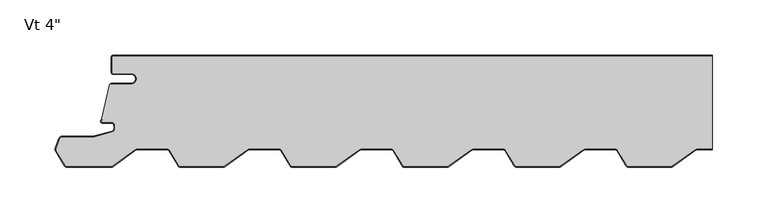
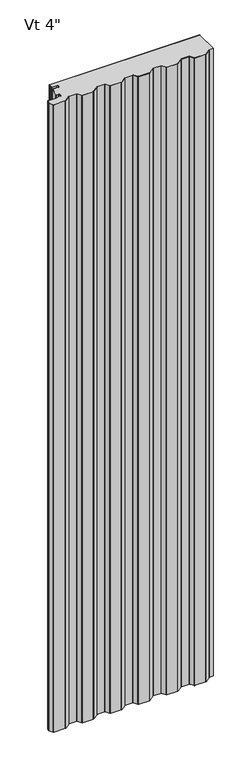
"""IFC4 building model written with IfcOpenShell, lengths in millimetres: plate geometry."""

from ifc_helpers import new_model, si_unit, point, frame_2d, origin, origin_with_axes, place, context, project, spatial, polyline, circle_curve, trimmed, segment, composite_curve, outline, extrude, source, transform, mapped, element, save


def plate_9160dace(model_context):
    return source(origin(), model_context, "Body", "SweptSolid", [
        extrude(outline(composite_curve([segment(polyline([(-270.4180055, -0.8019381), (272.7999998, -0.8019381), (272.7999998, -84.9200375), (259.1601262, -84.9200375)]), True, "CONTINUOUS"), segment(trimmed(circle_curve(frame_2d((259.1601262, -87.270272)), 2.3502344), [point((259.1601262, -84.9200375))], [point((257.7940802, -85.3578075))], True, "CARTESIAN"), True, "CONTINUOUS"), segment(polyline([(257.7940802, -85.3578075), (236.5891175, -100.5042095)]), True, "CONTINUOUS"), segment(trimmed(circle_curve(frame_2d((235.6661134, -99.2120038)), 1.5879962), [point((236.5891175, -100.5042095))], [point((235.6661134, -100.8))], False, "CARTESIAN"), True, "CONTINUOUS"), segment(polyline([(235.6661134, -100.8), (196.4620591, -100.8)]), True, "CONTINUOUS"), segment(trimmed(circle_curve(frame_2d((196.4620591, -99.2120038)), 1.5879962), [point((196.4620591, -100.8))], [point((195.1003636, -100.0290211))], False, "CARTESIAN"), True, "CONTINUOUS"), segment(polyline([(195.1003636, -100.0290211), (186.7196027, -86.0610863)]), True, "CONTINUOUS"), segment(trimmed(circle_curve(frame_2d((184.7042933, -87.270272)), 2.3502344), [point((186.7196027, -86.0610863))], [point((184.7042933, -84.9200375))], True, "CARTESIAN"), True, "CONTINUOUS"), segment(polyline([(184.7042933, -84.9200375), (157.5283663, -84.9200375)]), True, "CONTINUOUS"), segment(trimmed(circle_curve(frame_2d((157.5283663, -87.270272)), 2.3502344), [point((157.5283663, -84.9200375))], [point((156.1623203, -85.3578075))], True, "CARTESIAN"), True, "CONTINUOUS"), segment(polyline([(156.1623203, -85.3578075), (134.9573576, -100.5042095)]), True, "CONTINUOUS"), segment(trimmed(circle_curve(frame_2d((134.0343535, -99.2120038)), 1.5879962), [point((134.9573576, -100.5042095))], [point((134.0343535, -100.8))], False, "CARTESIAN"), True, "CONTINUOUS"), segment(polyline([(134.0343535, -100.8), (94.8302992, -100.8)]), True, "CONTINUOUS"), segment(trimmed(circle_curve(frame_2d((94.8302992, -99.2120038)), 1.5879962), [point((94.8302992, -100.8))], [point((93.4686036, -100.0290211))], False, "CARTESIAN"), True, "CONTINUOUS"), segment(polyline([(93.4686036, -100.0290211), (85.0878428, -86.0610863)]), True, "CONTINUOUS"), segment(trimmed(circle_curve(frame_2d((83.0725334, -87.270272)), 2.3502344), [point((85.0878428, -86.0610863))], [point((83.0725334, -84.9200375))], True, "CARTESIAN"), True, "CONTINUOUS"), segment(polyline([(83.0725334, -84.9200375), (55.8966064, -84.9200375)]), True, "CONTINUOUS"), segment(trimmed(circle_curve(frame_2d((55.8966064, -87.270272)), 2.3502344), [point((55.8966064, -84.9200375))], [point((54.5305604, -85.3578075))], True, "CARTESIAN"), True, "CONTINUOUS"), segment(polyline([(54.5305604, -85.3578075), (33.3255977, -100.5042095)]), True, "CONTINUOUS"), segment(trimmed(circle_curve(frame_2d((32.4025936, -99.2120038)), 1.5879962), [point((33.3255977, -100.5042095))], [point((32.4025936, -100.8))], False, "CARTESIAN"), True, "CONTINUOUS"), segment(polyline([(32.4025936, -100.8), (-6.8014607, -100.8)]), True, "CONTINUOUS"), segment(trimmed(circle_curve(frame_2d((-6.8014607, -99.2120038)), 1.5879962), [point((-6.8014607, -100.8))], [point((-8.1631563, -100.0290211))], False, "CARTESIAN"), True, "CONTINUOUS"), segment(polyline([(-8.1631563, -100.0290211), (-16.5439171, -86.0610863)]), True, "CONTINUOUS"), segment(trimmed(circle_curve(frame_2d((-18.5592266, -87.270272)), 2.3502344), [point((-16.5439171, -86.0610863))], [point((-18.5592266, -84.9200375))], True, "CARTESIAN"), True, "CONTINUOUS"), segment(polyline([(-18.5592266, -84.9200375), (-45.7351535, -84.9200375)]), True, "CONTINUOUS"), segment(trimmed(circle_curve(frame_2d((-45.7351535, -87.270272)), 2.3502344), [point((-45.7351535, -84.9200375))], [point((-47.1011996, -85.3578075))], True, "CARTESIAN"), True, "CONTINUOUS"), segment(polyline([(-47.1011996, -85.3578075), (-68.3061623, -100.5042095)]), True, "CONTINUOUS"), segment(trimmed(circle_curve(frame_2d((-69.2291663, -99.2120038)), 1.5879962), [point((-68.3061623, -100.5042095))], [point((-69.2291663, -100.8))], False, "CARTESIAN"), True, "CONTINUOUS"), segment(polyline([(-69.2291663, -100.8), (-108.4332207, -100.8)]), True, "CONTINUOUS"), segment(trimmed(circle_curve(frame_2d((-108.4332207, -99.2120038)), 1.5879962), [point((-108.4332207, -100.8))], [point((-109.7949162, -100.0290211))], False, "CARTESIAN"), True, "CONTINUOUS"), segment(polyline([(-109.7949162, -100.0290211), (-118.1756771, -86.0610863)]), True, "CONTINUOUS"), segment(trimmed(circle_curve(frame_2d((-120.1909865, -87.270272)), 2.3502344), [point((-118.1756771, -86.0610863))], [point((-120.1909865, -84.9200375))], True, "CARTESIAN"), True, "CONTINUOUS"), segment(polyline([(-120.1909865, -84.9200375), (-147.3669135, -84.9200375)]), True, "CONTINUOUS"), segment(trimmed(circle_curve(frame_2d((-147.3669135, -87.270272)), 2.3502344), [point((-147.3669135, -84.9200375))], [point((-148.7329595, -85.3578075))], True, "CARTESIAN"), True, "CONTINUOUS"), segment(polyline([(-148.7329595, -85.3578075), (-169.9379222, -100.5042095)]), True, "CONTINUOUS"), segment(trimmed(circle_curve(frame_2d((-170.8609263, -99.2120038)), 1.5879962), [point((-169.9379222, -100.5042095))], [point((-170.8609263, -100.8))], False, "CARTESIAN"), True, "CONTINUOUS"), segment(polyline([(-170.8609263, -100.8), (-210.0649806, -100.8)]), True, "CONTINUOUS"), segment(trimmed(circle_curve(frame_2d((-210.0649806, -99.2120038)), 1.5879962), [point((-210.0649806, -100.8))], [point((-211.4266761, -100.0290211))], False, "CARTESIAN"), True, "CONTINUOUS"), segment(polyline([(-211.4266761, -100.0290211), (-219.807437, -86.0610863)]), True, "CONTINUOUS"), segment(trimmed(circle_curve(frame_2d((-221.8227464, -87.270272)), 2.3502344), [point((-219.807437, -86.0610863))], [point((-221.8227464, -84.9200375))], True, "CARTESIAN"), True, "CONTINUOUS"), segment(polyline([(-221.8227464, -84.9200375), (-248.9986734, -84.9200375)]), True, "CONTINUOUS"), segment(trimmed(circle_curve(frame_2d((-248.9986734, -87.270272)), 2.3502344), [point((-248.9986734, -84.9200375))], [point((-250.3647194, -85.3578075))], True, "CARTESIAN"), True, "CONTINUOUS"), segment(polyline([(-250.3647194, -85.3578075), (-271.5696821, -100.5042095)]), True, "CONTINUOUS"), segment(trimmed(circle_curve(frame_2d((-272.4926862, -99.2120038)), 1.5879962), [point((-271.5696821, -100.5042095))], [point((-272.4926862, -100.8))], False, "CARTESIAN"), True, "CONTINUOUS"), segment(polyline([(-272.4926862, -100.8), (-313.2512341, -100.8)]), True, "CONTINUOUS"), segment(trimmed(circle_curve(frame_2d((-313.2512341, -99.2120038)), 1.5879962), [point((-313.2512341, -100.8))], [point((-314.6129296, -100.0290211))], False, "CARTESIAN"), True, "CONTINUOUS"), segment(polyline([(-314.6129296, -100.0290211), (-322.4856613, -86.9078017)]), True, "CONTINUOUS"), segment(trimmed(circle_curve(frame_2d((-320.4431179, -85.6822757)), 2.3819944), [point((-322.4856613, -86.9078017))], [point((-322.6814605, -84.8675857))], False, "CARTESIAN"), True, "CONTINUOUS"), segment(polyline([(-322.6814605, -84.8675857), (-319.4568321, -76.0079921)]), True, "CONTINUOUS"), segment(trimmed(circle_curve(frame_2d((-317.2184896, -76.8226821)), 2.3819944), [point((-319.4568321, -76.0079921))], [point((-317.2184896, -74.4406877))], False, "CARTESIAN"), True, "CONTINUOUS"), segment(polyline([(-317.2184896, -74.4406877), (-290.0333742, -74.4406877)]), True, "CONTINUOUS"), segment(trimmed(circle_curve(frame_2d((-290.0333742, -71.2964552)), 3.1442326), [point((-290.0333742, -74.4406877))], [point((-289.2083607, -74.3305203))], True, "CARTESIAN"), True, "CONTINUOUS"), segment(polyline([(-289.2083607, -74.3305203), (-271.729044, -69.5775993)]), True, "CONTINUOUS"), segment(trimmed(circle_curve(frame_2d((-272.5540575, -66.5435342)), 3.1442326), [point((-271.729044, -69.5775993))], [point((-269.4098249, -66.5435342))], True, "CARTESIAN"), True, "CONTINUOUS"), segment(polyline([(-269.4098249, -66.5435342), (-269.4098249, -63.8816786)]), True, "CONTINUOUS"), segment(trimmed(circle_curve(frame_2d((-272.5540575, -63.8816786)), 3.1442326), [point((-269.4098249, -63.8816786))], [point((-272.5540575, -60.7374461))], True, "CARTESIAN"), True, "CONTINUOUS"), segment(polyline([(-272.5540575, -60.7374461), (-280.6810818, -60.7374461)]), True, "CONTINUOUS"), segment(trimmed(circle_curve(frame_2d((-280.6810818, -59.9434479)), 0.7939981), [point((-280.6810818, -60.7374461))], [point((-281.2425233, -59.3820065))], False, "CARTESIAN"), True, "CONTINUOUS"), segment(polyline([(-281.2425233, -59.3820065), (-280.6420193, -58.7815025), (-281.2056496, -58.2178722), (-274.2125705, -26.2098781), (-254.538043, -26.2098781)]), True, "CONTINUOUS"), segment(trimmed(circle_curve(frame_2d((-254.538043, -21.4458893)), 4.7639887), [point((-254.538043, -26.2098781))], [point((-254.538043, -16.6819006))], True, "CARTESIAN"), True, "CONTINUOUS"), segment(polyline([(-254.538043, -16.6819006), (-270.4180055, -16.6819006)]), True, "CONTINUOUS"), segment(trimmed(circle_curve(frame_2d((-270.4180055, -15.0939043)), 1.5879962), [point((-270.4180055, -16.6819006))], [point((-272.0060017, -15.0939043))], False, "CARTESIAN"), True, "CONTINUOUS"), segment(polyline([(-272.0060017, -15.0939043), (-272.0060017, -2.3899344)]), True, "CONTINUOUS"), segment(trimmed(circle_curve(frame_2d((-270.4180055, -2.3899344)), 1.5879962), [point((-272.0060017, -2.3899344))], [point((-270.4180055, -0.8019381))], False, "CARTESIAN"), True, "CONTINUOUS")], self_intersect=False)), origin_with_axes(), (0.0, 0.0, 1.0), 2400.0),
        extrude(outline(composite_curve([segment(polyline([(-270.4180055, 0.0), (272.7999998, 0.0), (272.7999998, -0.7939981), (-270.4180055, -0.7939981)]), True, "CONTINUOUS"), segment(trimmed(circle_curve(frame_2d((-270.4180055, -2.3819944)), 1.5879962), [point((-270.4180055, -0.7939981))], [point((-272.0060017, -2.3819944))], True, "CARTESIAN"), True, "CONTINUOUS"), segment(polyline([(-272.0060017, -2.3819944), (-272.0060017, -15.0859644)]), True, "CONTINUOUS"), segment(trimmed(circle_curve(frame_2d((-270.4180055, -15.0859644)), 1.5879962), [point((-272.0060017, -15.0859644))], [point((-270.4180055, -16.6739606))], True, "CARTESIAN"), True, "CONTINUOUS"), segment(polyline([(-270.4180055, -16.6739606), (-254.538043, -16.6739606)]), True, "CONTINUOUS"), segment(trimmed(circle_curve(frame_2d((-254.538043, -21.4379494)), 4.7639887), [point((-254.538043, -16.6739606))], [point((-254.538043, -26.2019381))], False, "CARTESIAN"), True, "CONTINUOUS"), segment(polyline([(-254.538043, -26.2019381), (-272.7999998, -26.2019381), (-272.7999998, -25.40794), (-254.538043, -25.40794)]), True, "CONTINUOUS"), segment(trimmed(circle_curve(frame_2d((-254.538043, -21.4379494)), 3.9699906), [point((-254.538043, -25.40794))], [point((-254.538043, -17.4679587))], True, "CARTESIAN"), True, "CONTINUOUS"), segment(polyline([(-254.538043, -17.4679587), (-270.4180055, -17.4679587)]), True, "CONTINUOUS"), segment(trimmed(circle_curve(frame_2d((-270.4180055, -15.0859644)), 2.3819944), [point((-270.4180055, -17.4679587))], [point((-272.7999998, -15.0859644))], False, "CARTESIAN"), True, "CONTINUOUS"), segment(polyline([(-272.7999998, -15.0859644), (-272.7999998, -2.3819944)]), True, "CONTINUOUS"), segment(trimmed(circle_curve(frame_2d((-270.4180055, -2.3819944)), 2.3819944), [point((-272.7999998, -2.3819944))], [point((-270.4180055, 0.0))], False, "CARTESIAN"), True, "CONTINUOUS")], self_intersect=False)), origin_with_axes(), (0.0, 0.0, 1.0), 2400.0),
        extrude(outline(composite_curve([segment(polyline([(259.1601262, -84.9200375), (272.7999998, -84.9200375), (272.7999998, -85.7200375), (259.1601262, -85.7200375)]), True, "CONTINUOUS"), segment(trimmed(circle_curve(frame_2d((259.1601262, -87.270272)), 1.5502344), [point((259.1601262, -85.7200375))], [point((258.2590708, -86.0087943))], True, "CARTESIAN"), True, "CONTINUOUS"), segment(polyline([(258.2590708, -86.0087943), (237.0541081, -101.1551962)]), True, "CONTINUOUS"), segment(trimmed(circle_curve(frame_2d((235.6661134, -99.2120038)), 2.3879962), [point((237.0541081, -101.1551962))], [point((235.6661134, -101.6))], False, "CARTESIAN"), True, "CONTINUOUS"), segment(polyline([(235.6661134, -101.6), (196.4620591, -101.6)]), True, "CONTINUOUS"), segment(trimmed(circle_curve(frame_2d((196.4620591, -99.2120038)), 2.3879962), [point((196.4620591, -101.6))], [point((194.4143692, -100.4406177))], False, "CARTESIAN"), True, "CONTINUOUS"), segment(polyline([(194.4143692, -100.4406177), (186.0336084, -86.4726829)]), True, "CONTINUOUS"), segment(trimmed(circle_curve(frame_2d((184.7042933, -87.270272)), 1.5502344), [point((186.0336084, -86.4726829))], [point((184.7042933, -85.7200375))], True, "CARTESIAN"), True, "CONTINUOUS"), segment(polyline([(184.7042933, -85.7200375), (157.5283663, -85.7200375)]), True, "CONTINUOUS"), segment(trimmed(circle_curve(frame_2d((157.5283663, -87.270272)), 1.5502344), [point((157.5283663, -85.7200375))], [point((156.6273108, -86.0087943))], True, "CARTESIAN"), True, "CONTINUOUS"), segment(polyline([(156.6273108, -86.0087943), (135.4223481, -101.1551962)]), True, "CONTINUOUS"), segment(trimmed(circle_curve(frame_2d((134.0343535, -99.2120038)), 2.3879962), [point((135.4223481, -101.1551962))], [point((134.0343535, -101.6))], False, "CARTESIAN"), True, "CONTINUOUS"), segment(polyline([(134.0343535, -101.6), (94.8302992, -101.6)]), True, "CONTINUOUS"), segment(trimmed(circle_curve(frame_2d((94.8302992, -99.2120038)), 2.3879962), [point((94.8302992, -101.6))], [point((92.7826093, -100.4406177))], False, "CARTESIAN"), True, "CONTINUOUS"), segment(polyline([(92.7826093, -100.4406177), (84.4018484, -86.4726829)]), True, "CONTINUOUS"), segment(trimmed(circle_curve(frame_2d((83.0725334, -87.270272)), 1.5502344), [point((84.4018484, -86.4726829))], [point((83.0725334, -85.7200375))], True, "CARTESIAN"), True, "CONTINUOUS"), segment(polyline([(83.0725334, -85.7200375), (55.8966064, -85.7200375)]), True, "CONTINUOUS"), segment(trimmed(circle_curve(frame_2d((55.8966064, -87.270272)), 1.5502344), [point((55.8966064, -85.7200375))], [point((54.9955509, -86.0087943))], True, "CARTESIAN"), True, "CONTINUOUS"), segment(polyline([(54.9955509, -86.0087943), (33.7905882, -101.1551962)]), True, "CONTINUOUS"), segment(trimmed(circle_curve(frame_2d((32.4025936, -99.2120038)), 2.3879962), [point((33.7905882, -101.1551962))], [point((32.4025936, -101.6))], False, "CARTESIAN"), True, "CONTINUOUS"), segment(polyline([(32.4025936, -101.6), (-6.8014607, -101.6)]), True, "CONTINUOUS"), segment(trimmed(circle_curve(frame_2d((-6.8014607, -99.2120038)), 2.3879962), [point((-6.8014607, -101.6))], [point((-8.8491506, -100.4406177))], False, "CARTESIAN"), True, "CONTINUOUS"), segment(polyline([(-8.8491506, -100.4406177), (-17.2299115, -86.4726829)]), True, "CONTINUOUS"), segment(trimmed(circle_curve(frame_2d((-18.5592266, -87.270272)), 1.5502344), [point((-17.2299115, -86.4726829))], [point((-18.5592266, -85.7200375))], True, "CARTESIAN"), True, "CONTINUOUS"), segment(polyline([(-18.5592266, -85.7200375), (-45.7351535, -85.7200375)]), True, "CONTINUOUS"), segment(trimmed(circle_curve(frame_2d((-45.7351535, -87.270272)), 1.5502344), [point((-45.7351535, -85.7200375))], [point((-46.636209, -86.0087943))], True, "CARTESIAN"), True, "CONTINUOUS"), segment(polyline([(-46.636209, -86.0087943), (-67.8411717, -101.1551962)]), True, "CONTINUOUS"), segment(trimmed(circle_curve(frame_2d((-69.2291663, -99.2120038)), 2.3879962), [point((-67.8411717, -101.1551962))], [point((-69.2291663, -101.6))], False, "CARTESIAN"), True, "CONTINUOUS"), segment(polyline([(-69.2291663, -101.6), (-108.4332207, -101.6)]), True, "CONTINUOUS"), segment(trimmed(circle_curve(frame_2d((-108.4332207, -99.2120038)), 2.3879962), [point((-108.4332207, -101.6))], [point((-110.4809105, -100.4406177))], False, "CARTESIAN"), True, "CONTINUOUS"), segment(polyline([(-110.4809105, -100.4406177), (-118.8616714, -86.4726829)]), True, "CONTINUOUS"), segment(trimmed(circle_curve(frame_2d((-120.1909865, -87.270272)), 1.5502344), [point((-118.8616714, -86.4726829))], [point((-120.1909865, -85.7200375))], True, "CARTESIAN"), True, "CONTINUOUS"), segment(polyline([(-120.1909865, -85.7200375), (-147.3669135, -85.7200375)]), True, "CONTINUOUS"), segment(trimmed(circle_curve(frame_2d((-147.3669135, -87.270272)), 1.5502344), [point((-147.3669135, -85.7200375))], [point((-148.2679689, -86.0087943))], True, "CARTESIAN"), True, "CONTINUOUS"), segment(polyline([(-148.2679689, -86.0087943), (-169.4729316, -101.1551962)]), True, "CONTINUOUS"), segment(trimmed(circle_curve(frame_2d((-170.8609263, -99.2120038)), 2.3879962), [point((-169.4729316, -101.1551962))], [point((-170.8609263, -101.6))], False, "CARTESIAN"), True, "CONTINUOUS"), segment(polyline([(-170.8609263, -101.6), (-210.0649806, -101.6)]), True, "CONTINUOUS"), segment(trimmed(circle_curve(frame_2d((-210.0649806, -99.2120038)), 2.3879962), [point((-210.0649806, -101.6))], [point((-212.1126705, -100.4406177))], False, "CARTESIAN"), True, "CONTINUOUS"), segment(polyline([(-212.1126705, -100.4406177), (-220.4934313, -86.4726829)]), True, "CONTINUOUS"), segment(trimmed(circle_curve(frame_2d((-221.8227464, -87.270272)), 1.5502344), [point((-220.4934313, -86.4726829))], [point((-221.8227464, -85.7200375))], True, "CARTESIAN"), True, "CONTINUOUS"), segment(polyline([(-221.8227464, -85.7200375), (-248.9986734, -85.7200375)]), True, "CONTINUOUS"), segment(trimmed(circle_curve(frame_2d((-248.9986734, -87.270272)), 1.5502344), [point((-248.9986734, -85.7200375))], [point((-249.8997289, -86.0087943))], True, "CARTESIAN"), True, "CONTINUOUS"), segment(polyline([(-249.8997289, -86.0087943), (-271.1046916, -101.1551962)]), True, "CONTINUOUS"), segment(trimmed(circle_curve(frame_2d((-272.4926862, -99.2120038)), 2.3879962), [point((-271.1046916, -101.1551962))], [point((-272.4926862, -101.6))], False, "CARTESIAN"), True, "CONTINUOUS"), segment(polyline([(-272.4926862, -101.6), (-313.2512341, -101.6)]), True, "CONTINUOUS"), segment(trimmed(circle_curve(frame_2d((-313.2512341, -99.2120038)), 2.3879962), [point((-313.2512341, -101.6))], [point((-315.298924, -100.4406177))], False, "CARTESIAN"), True, "CONTINUOUS"), segment(polyline([(-315.298924, -100.4406177), (-323.1716556, -87.3193983)]), True, "CONTINUOUS"), segment(trimmed(circle_curve(frame_2d((-320.4431179, -85.6822757)), 3.1819944), [point((-323.1716556, -87.3193983))], [point((-323.4332146, -84.5939695))], False, "CARTESIAN"), True, "CONTINUOUS"), segment(polyline([(-323.4332146, -84.5939695), (-320.2085862, -75.7343759)]), True, "CONTINUOUS"), segment(trimmed(circle_curve(frame_2d((-317.2184896, -76.8226821)), 3.1819944), [point((-320.2085862, -75.7343759))], [point((-317.2184896, -73.6406877))], False, "CARTESIAN"), True, "CONTINUOUS"), segment(polyline([(-317.2184896, -73.6406877), (-289.7203392, -73.6406877), (-271.9389556, -68.8056297)]), True, "CONTINUOUS"), segment(trimmed(circle_curve(frame_2d((-272.5540575, -66.5435342)), 2.3442326), [point((-271.9389556, -68.8056297))], [point((-270.2098249, -66.5435342))], True, "CARTESIAN"), True, "CONTINUOUS"), segment(polyline([(-270.2098249, -66.5435342), (-270.2098249, -63.8816786)]), True, "CONTINUOUS"), segment(trimmed(circle_curve(frame_2d((-272.5540575, -63.8816786)), 2.3442326), [point((-270.2098249, -63.8816786))], [point((-272.5540575, -61.5374461))], True, "CARTESIAN"), True, "CONTINUOUS"), segment(polyline([(-272.5540575, -61.5374461), (-280.7201443, -61.5374461)]), True, "CONTINUOUS"), segment(trimmed(circle_curve(frame_2d((-280.7201443, -59.9434479)), 1.5939981), [point((-280.7201443, -61.5374461))], [point((-281.8472712, -58.8163211))], False, "CARTESIAN"), True, "CONTINUOUS"), segment(polyline([(-281.8472712, -58.8163211), (-281.2858297, -58.2548796), (-280.7201443, -58.820565), (-281.2815858, -59.3820065)]), True, "CONTINUOUS"), segment(trimmed(circle_curve(frame_2d((-280.7201443, -59.9434479)), 0.7939981), [point((-281.2815858, -59.3820065))], [point((-280.7201443, -60.7374461))], True, "CARTESIAN"), True, "CONTINUOUS"), segment(polyline([(-280.7201443, -60.7374461), (-272.5540575, -60.7374461)]), True, "CONTINUOUS"), segment(trimmed(circle_curve(frame_2d((-272.5540575, -63.8816786)), 3.1442326), [point((-272.5540575, -60.7374461))], [point((-269.4098249, -63.8816786))], False, "CARTESIAN"), True, "CONTINUOUS"), segment(polyline([(-269.4098249, -63.8816786), (-269.4098249, -66.5435342)]), True, "CONTINUOUS"), segment(trimmed(circle_curve(frame_2d((-272.5540575, -66.5435342)), 3.1442326), [point((-269.4098249, -66.5435342))], [point((-271.729044, -69.5775993))], False, "CARTESIAN"), True, "CONTINUOUS"), segment(polyline([(-271.729044, -69.5775993), (-289.2083607, -74.3305203)]), True, "CONTINUOUS"), segment(trimmed(circle_curve(frame_2d((-290.0333742, -71.2964552)), 3.1442326), [point((-289.2083607, -74.3305203))], [point((-290.0333742, -74.4406877))], False, "CARTESIAN"), True, "CONTINUOUS"), segment(polyline([(-290.0333742, -74.4406877), (-317.2184896, -74.4406877)]), True, "CONTINUOUS"), segment(trimmed(circle_curve(frame_2d((-317.2184896, -76.8226821)), 2.3819944), [point((-317.2184896, -74.4406877))], [point((-319.4568321, -76.0079921))], True, "CARTESIAN"), True, "CONTINUOUS"), segment(polyline([(-319.4568321, -76.0079921), (-322.6814605, -84.8675857)]), True, "CONTINUOUS"), segment(trimmed(circle_curve(frame_2d((-320.4431179, -85.6822757)), 2.3819944), [point((-322.6814605, -84.8675857))], [point((-322.4856613, -86.9078017))], True, "CARTESIAN"), True, "CONTINUOUS"), segment(polyline([(-322.4856613, -86.9078017), (-314.6129296, -100.0290211)]), True, "CONTINUOUS"), segment(trimmed(circle_curve(frame_2d((-313.2512341, -99.2120038)), 1.5879962), [point((-314.6129296, -100.0290211))], [point((-313.2512341, -100.8))], True, "CARTESIAN"), True, "CONTINUOUS"), segment(polyline([(-313.2512341, -100.8), (-272.4926862, -100.8)]), True, "CONTINUOUS"), segment(trimmed(circle_curve(frame_2d((-272.4926862, -99.2120038)), 1.5879962), [point((-272.4926862, -100.8))], [point((-271.5696821, -100.5042095))], True, "CARTESIAN"), True, "CONTINUOUS"), segment(polyline([(-271.5696821, -100.5042095), (-250.3647194, -85.3578075)]), True, "CONTINUOUS"), segment(trimmed(circle_curve(frame_2d((-248.9986734, -87.270272)), 2.3502344), [point((-250.3647194, -85.3578075))], [point((-248.9986734, -84.9200375))], False, "CARTESIAN"), True, "CONTINUOUS"), segment(polyline([(-248.9986734, -84.9200375), (-221.8227464, -84.9200375)]), True, "CONTINUOUS"), segment(trimmed(circle_curve(frame_2d((-221.8227464, -87.270272)), 2.3502344), [point((-221.8227464, -84.9200375))], [point((-219.807437, -86.0610863))], False, "CARTESIAN"), True, "CONTINUOUS"), segment(polyline([(-219.807437, -86.0610863), (-211.4266761, -100.0290211)]), True, "CONTINUOUS"), segment(trimmed(circle_curve(frame_2d((-210.0649806, -99.2120038)), 1.5879962), [point((-211.4266761, -100.0290211))], [point((-210.0649806, -100.8))], True, "CARTESIAN"), True, "CONTINUOUS"), segment(polyline([(-210.0649806, -100.8), (-170.8609263, -100.8)]), True, "CONTINUOUS"), segment(trimmed(circle_curve(frame_2d((-170.8609263, -99.2120038)), 1.5879962), [point((-170.8609263, -100.8))], [point((-169.9379222, -100.5042095))], True, "CARTESIAN"), True, "CONTINUOUS"), segment(polyline([(-169.9379222, -100.5042095), (-148.7329595, -85.3578075)]), True, "CONTINUOUS"), segment(trimmed(circle_curve(frame_2d((-147.3669135, -87.270272)), 2.3502344), [point((-148.7329595, -85.3578075))], [point((-147.3669135, -84.9200375))], False, "CARTESIAN"), True, "CONTINUOUS"), segment(polyline([(-147.3669135, -84.9200375), (-120.1909865, -84.9200375)]), True, "CONTINUOUS"), segment(trimmed(circle_curve(frame_2d((-120.1909865, -87.270272)), 2.3502344), [point((-120.1909865, -84.9200375))], [point((-118.1756771, -86.0610863))], False, "CARTESIAN"), True, "CONTINUOUS"), segment(polyline([(-118.1756771, -86.0610863), (-109.7949162, -100.0290211)]), True, "CONTINUOUS"), segment(trimmed(circle_curve(frame_2d((-108.4332207, -99.2120038)), 1.5879962), [point((-109.7949162, -100.0290211))], [point((-108.4332207, -100.8))], True, "CARTESIAN"), True, "CONTINUOUS"), segment(polyline([(-108.4332207, -100.8), (-69.2291663, -100.8)]), True, "CONTINUOUS"), segment(trimmed(circle_curve(frame_2d((-69.2291663, -99.2120038)), 1.5879962), [point((-69.2291663, -100.8))], [point((-68.3061623, -100.5042095))], True, "CARTESIAN"), True, "CONTINUOUS"), segment(polyline([(-68.3061623, -100.5042095), (-47.1011996, -85.3578075)]), True, "CONTINUOUS"), segment(trimmed(circle_curve(frame_2d((-45.7351535, -87.270272)), 2.3502344), [point((-47.1011996, -85.3578075))], [point((-45.7351535, -84.9200375))], False, "CARTESIAN"), True, "CONTINUOUS"), segment(polyline([(-45.7351535, -84.9200375), (-18.5592266, -84.9200375)]), True, "CONTINUOUS"), segment(trimmed(circle_curve(frame_2d((-18.5592266, -87.270272)), 2.3502344), [point((-18.5592266, -84.9200375))], [point((-16.5439171, -86.0610863))], False, "CARTESIAN"), True, "CONTINUOUS"), segment(polyline([(-16.5439171, -86.0610863), (-8.1631563, -100.0290211)]), True, "CONTINUOUS"), segment(trimmed(circle_curve(frame_2d((-6.8014607, -99.2120038)), 1.5879962), [point((-8.1631563, -100.0290211))], [point((-6.8014607, -100.8))], True, "CARTESIAN"), True, "CONTINUOUS"), segment(polyline([(-6.8014607, -100.8), (32.4025936, -100.8)]), True, "CONTINUOUS"), segment(trimmed(circle_curve(frame_2d((32.4025936, -99.2120038)), 1.5879962), [point((32.4025936, -100.8))], [point((33.3255977, -100.5042095))], True, "CARTESIAN"), True, "CONTINUOUS"), segment(polyline([(33.3255977, -100.5042095), (54.5305604, -85.3578075)]), True, "CONTINUOUS"), segment(trimmed(circle_curve(frame_2d((55.8966064, -87.270272)), 2.3502344), [point((54.5305604, -85.3578075))], [point((55.8966064, -84.9200375))], False, "CARTESIAN"), True, "CONTINUOUS"), segment(polyline([(55.8966064, -84.9200375), (83.0725334, -84.9200375)]), True, "CONTINUOUS"), segment(trimmed(circle_curve(frame_2d((83.0725334, -87.270272)), 2.3502344), [point((83.0725334, -84.9200375))], [point((85.0878428, -86.0610863))], False, "CARTESIAN"), True, "CONTINUOUS"), segment(polyline([(85.0878428, -86.0610863), (93.4686036, -100.0290211)]), True, "CONTINUOUS"), segment(trimmed(circle_curve(frame_2d((94.8302992, -99.2120038)), 1.5879962), [point((93.4686036, -100.0290211))], [point((94.8302992, -100.8))], True, "CARTESIAN"), True, "CONTINUOUS"), segment(polyline([(94.8302992, -100.8), (134.0343535, -100.8)]), True, "CONTINUOUS"), segment(trimmed(circle_curve(frame_2d((134.0343535, -99.2120038)), 1.5879962), [point((134.0343535, -100.8))], [point((134.9573576, -100.5042095))], True, "CARTESIAN"), True, "CONTINUOUS"), segment(polyline([(134.9573576, -100.5042095), (156.1623203, -85.3578075)]), True, "CONTINUOUS"), segment(trimmed(circle_curve(frame_2d((157.5283663, -87.270272)), 2.3502344), [point((156.1623203, -85.3578075))], [point((157.5283663, -84.9200375))], False, "CARTESIAN"), True, "CONTINUOUS"), segment(polyline([(157.5283663, -84.9200375), (184.7042933, -84.9200375)]), True, "CONTINUOUS"), segment(trimmed(circle_curve(frame_2d((184.7042933, -87.270272)), 2.3502344), [point((184.7042933, -84.9200375))], [point((186.7196027, -86.0610863))], False, "CARTESIAN"), True, "CONTINUOUS"), segment(polyline([(186.7196027, -86.0610863), (195.1003636, -100.0290211)]), True, "CONTINUOUS"), segment(trimmed(circle_curve(frame_2d((196.4620591, -99.2120038)), 1.5879962), [point((195.1003636, -100.0290211))], [point((196.4620591, -100.8))], True, "CARTESIAN"), True, "CONTINUOUS"), segment(polyline([(196.4620591, -100.8), (235.6661134, -100.8)]), True, "CONTINUOUS"), segment(trimmed(circle_curve(frame_2d((235.6661134, -99.2120038)), 1.5879962), [point((235.6661134, -100.8))], [point((236.5891175, -100.5042095))], True, "CARTESIAN"), True, "CONTINUOUS"), segment(polyline([(236.5891175, -100.5042095), (257.7940802, -85.3578075)]), True, "CONTINUOUS"), segment(trimmed(circle_curve(frame_2d((259.1601262, -87.270272)), 2.3502344), [point((257.7940802, -85.3578075))], [point((259.1601262, -84.9200375))], False, "CARTESIAN"), True, "CONTINUOUS")], self_intersect=False)), origin_with_axes(), (0.0, 0.0, 1.0), 2400.0),
    ])


if __name__ == "__main__":
    model = new_model("IFC4")
    model_context = context("Model", 3, world=origin())
    ifc_project = project(units=[si_unit("LENGTHUNIT", "METRE", prefix="MILLI")], contexts=[model_context])
    site = spatial("IfcSite", under=ifc_project)
    building = spatial("IfcBuilding", under=site)
    placement = place(None, origin())
    plate_shape = plate_9160dace(model_context)
    element("IfcPlate", 1, ObjectType="KIP-36-Vale-R19-CP-Vt : Vt 4\"", at=placement, inside=building, context=model_context, shape_type="MappedRepresentation", body=[
        mapped(plate_shape, transform((0.0, 0.0, 0.0), x_axis=(1.0, 0.0, 0.0), y_axis=(0.0, 1.0, 0.0), z_axis=(0.0, 0.0, 1.0))),
    ])
    save(model, "model.ifc")
